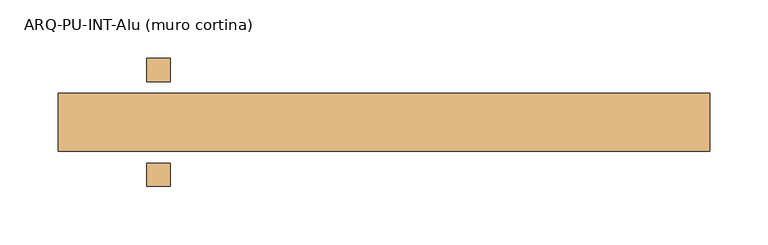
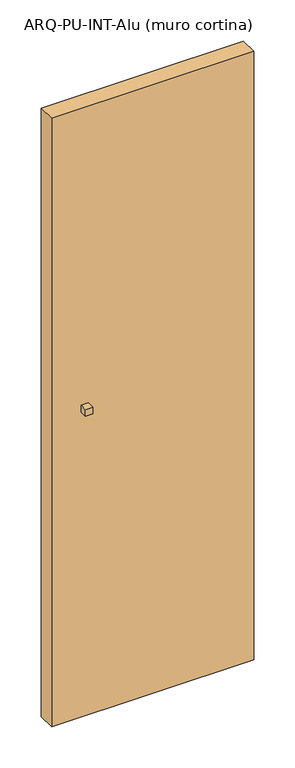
"""IFC4 building model written with IfcOpenShell, lengths in millimetres: door geometry, ARQ-PU-INT-Alu (muro cortina) : ARQ-PU-IN-Alu-sshh."""

from ifc_helpers import new_model, si_unit, frame, origin, origin_with_axes, place, context, project, spatial, polyline, outline, extrude, source, transform, mapped, element, save


def arq_pu_int_alu_muro_cortina_763f2388(model_context):
    return source(origin(), model_context, "Body", "SweptSolid", [
        extrude(outline(polyline([(-183.618174, 30.0), (-183.618174, 10.0), (-203.618174, 10.0), (-203.618174, 30.0), (-183.618174, 30.0)])), frame((0.0, 0.0, 900.0), z_axis=(0.0, 0.0, 1.0), x_axis=(1.0, 0.0, 0.0)), (0.0, 0.0, 1.0), 20.0),
        extrude(outline(polyline([(-203.618174, -80.0), (-203.618174, -60.0), (-183.618174, -60.0), (-183.618174, -80.0), (-203.618174, -80.0)])), frame((0.0, 0.0, 900.0), z_axis=(0.0, 0.0, 1.0), x_axis=(1.0, 0.0, 0.0)), (0.0, 0.0, 1.0), 20.0),
        extrude(outline(polyline([(279.818174, -50.0), (-279.818174, -50.0), (-279.818174, 0.0), (279.818174, 0.0), (279.818174, -50.0)])), origin_with_axes(), (0.0, 0.0, 1.0), 1780.0),
    ])


if __name__ == "__main__":
    model = new_model("IFC4")
    model_context = context("Model", 3, world=origin())
    ifc_project = project(units=[si_unit("LENGTHUNIT", "METRE", prefix="MILLI")], contexts=[model_context])
    site = spatial("IfcSite", under=ifc_project)
    building = spatial("IfcBuilding", under=site)
    placement = place(None, origin())
    arq_pu_int_alu_muro_cortina_shape = arq_pu_int_alu_muro_cortina_763f2388(model_context)
    element("IfcDoor", 1, ObjectType="ARQ-PU-INT-Alu (muro cortina) : ARQ-PU-IN-Alu-sshh", at=placement, inside=building, context=model_context, shape_type="MappedRepresentation", body=[
        mapped(arq_pu_int_alu_muro_cortina_shape, transform((0.0, 0.0, 0.0), x_axis=(1.0, 0.0, 0.0), y_axis=(0.0, 1.0, 0.0), z_axis=(0.0, 0.0, 1.0))),
    ])
    save(model, "model.ifc")
